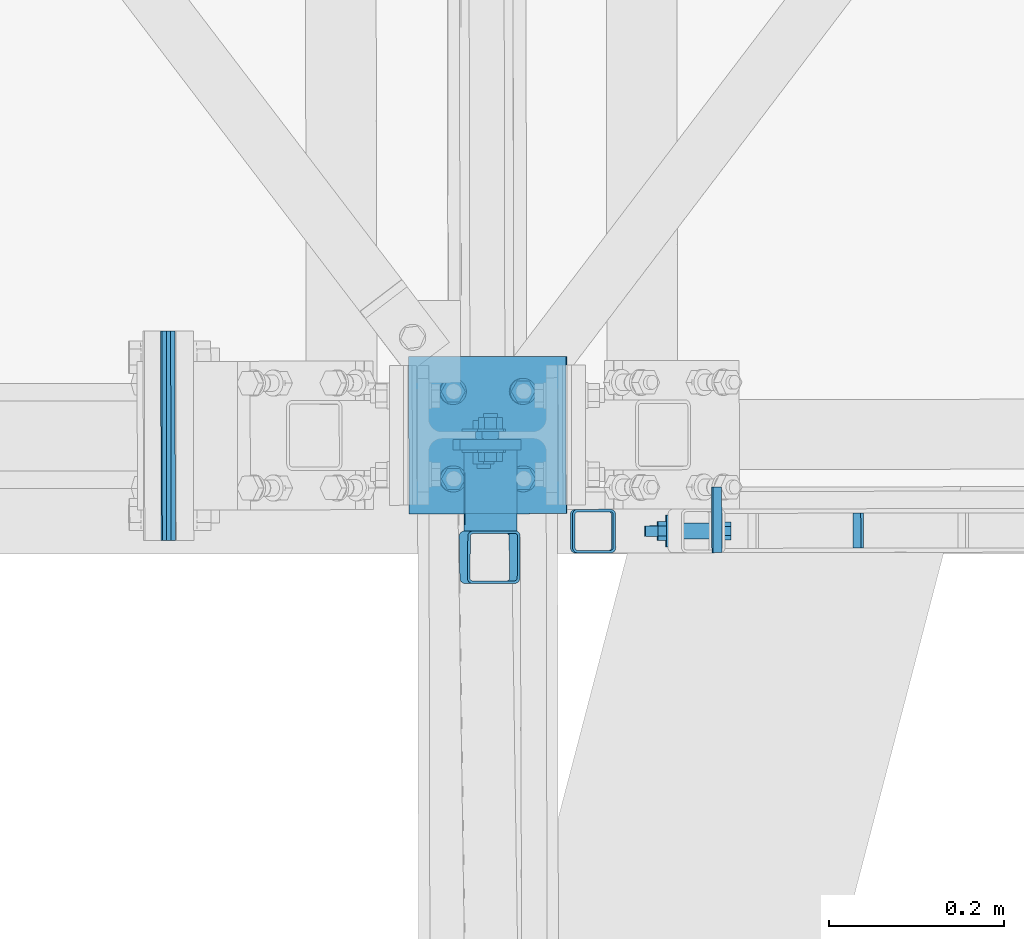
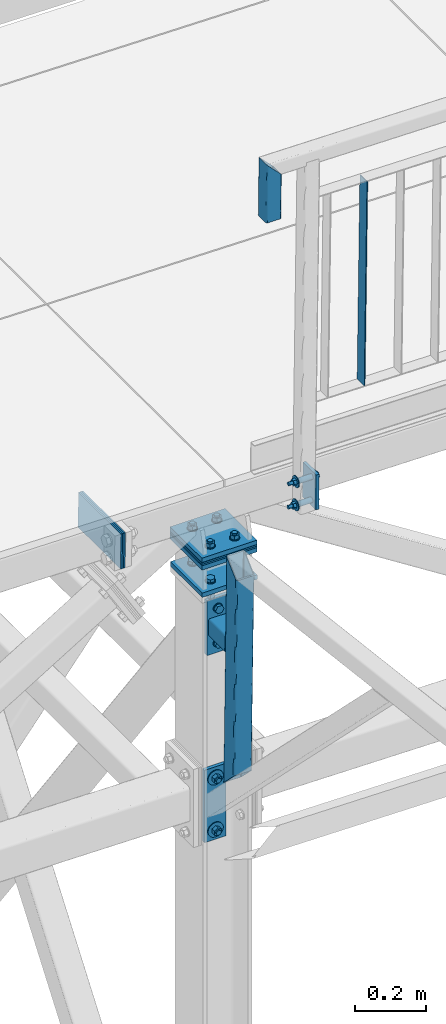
# One storey, part 102 of 169: 15 discrete accessories, 5 mechanical fasteners, 11 elements without a shape of their own.
"""IFC2X3 building model written with IfcOpenShell, lengths in millimetres."""

import ifcopenshell
import ifcopenshell.guid

model = None  # the IFC model being written
_history = None  # IfcOwnerHistory: only IFC2X3 demands one
_inside = {}  # id of a spatial element -> (the spatial element, [elements in it])
_under = {}  # id of a project, library or spatial element -> (it, [spatial elements below it])
_declared = {}  # id of a project -> (the project, [libraries it declares])
_typed = {}  # id of a type object -> (the type object, [elements of that type])
_made_of = {}  # id of a material, layer set ... -> (it, [elements and type objects made of it])


def new_model(schema):
    """Start an empty IFC model of exactly this schema.

    Asked for "IFC4X3", IfcOpenShell would pick the latest addendum, in which some entities
    have other attributes; the version numbers below select the first issue.
    IFC2X3 requires an IfcOwnerHistory on every rooted entity: one is made here for all.
    """
    global model, _history
    if schema == "IFC4X3":
        model = ifcopenshell.file(schema_version=(4, 3, 0, 0))
    else:
        model = ifcopenshell.file(schema=schema)
    _inside.clear()
    _under.clear()
    _declared.clear()
    _typed.clear()
    _made_of.clear()
    _history = None
    if model.schema == "IFC2X3":
        org = make("IfcOrganization", Name="unknown")
        user = make(
            "IfcPersonAndOrganization",
            ThePerson=make("IfcPerson", FamilyName="unknown"),
            TheOrganization=org,
        )
        app = make(
            "IfcApplication",
            ApplicationDeveloper=org,
            Version="unknown",
            ApplicationFullName="unknown",
            ApplicationIdentifier="unknown",
        )
        _history = make(
            "IfcOwnerHistory",
            OwningUser=user,
            OwningApplication=app,
            ChangeAction="ADDED",
            CreationDate=0,
        )
    return model


def make(cls, **values):
    """One entity of the class cls with the attributes given. An attribute that is None is left unset."""
    return model.create_entity(
        cls, **{name: value for name, value in values.items() if value is not None}
    )


def rooted(cls, **values):
    """An entity with a GlobalId (a new one), such as an element, a storey or a relation."""
    return make(cls, GlobalId=ifcopenshell.guid.new(), OwnerHistory=_history, **values)


def si_unit(unit_type, name, prefix=None):
    """IfcSIUnit, for example si_unit("LENGTHUNIT", "METRE", prefix="MILLI")."""
    return make("IfcSIUnit", UnitType=unit_type, Prefix=prefix, Name=name)


def assignment(units):
    """IfcUnitAssignment: the units of a project."""
    return None if units is None else make("IfcUnitAssignment", Units=units)


def point(xyz):
    """IfcCartesianPoint."""
    return None if xyz is None else make("IfcCartesianPoint", Coordinates=xyz)


def direction(xyz):
    """IfcDirection."""
    return None if xyz is None else make("IfcDirection", DirectionRatios=xyz)


def frame(location, z_axis=None, x_axis=None):
    """IfcAxis2Placement3D, a coordinate frame: its origin and axes. An axis left out is left unset."""
    return make(
        "IfcAxis2Placement3D",
        Location=point(location),
        Axis=direction(z_axis),
        RefDirection=direction(x_axis),
    )


def frame_2d(location, x_axis=None):
    """IfcAxis2Placement2D, a coordinate frame in the plane: its origin and x axis."""
    return make(
        "IfcAxis2Placement2D", Location=point(location), RefDirection=direction(x_axis)
    )


def origin_with_axes():
    """The frame at (0, 0, 0) with the z axis (0, 0, 1) and the x axis (1, 0, 0) written out."""
    return frame((0.0, 0.0, 0.0), z_axis=(0.0, 0.0, 1.0), x_axis=(1.0, 0.0, 0.0))


def origin_2d_with_axis():
    """The frame at (0, 0) in the plane with the x axis (1, 0) written out."""
    return frame_2d((0.0, 0.0), x_axis=(1.0, 0.0))


def place(relative_to, where):
    """IfcLocalPlacement: puts the frame where relative to a parent placement (None: the world)."""
    return make(
        "IfcLocalPlacement", PlacementRelTo=relative_to, RelativePlacement=where
    )


def context(
    kind, dimensions, precision=None, world=None, true_north=None, identifier=None
):
    """IfcGeometricRepresentationContext, for example the 3D "Model" context."""
    return make(
        "IfcGeometricRepresentationContext",
        ContextIdentifier=identifier,
        ContextType=kind,
        CoordinateSpaceDimension=dimensions,
        Precision=precision,
        WorldCoordinateSystem=world,
        TrueNorth=true_north,
    )


def subcontext(parent, identifier, kind, view, scale=None):
    """IfcGeometricRepresentationSubContext, for example "Body" below "Model"."""
    return make(
        "IfcGeometricRepresentationSubContext",
        ContextIdentifier=identifier,
        ContextType=kind,
        ParentContext=parent,
        TargetScale=scale,
        TargetView=view,
    )


def project(units=None, contexts=None):
    """IfcProject with its units and contexts."""
    return rooted(
        "IfcProject",
        Name="project",
        RepresentationContexts=contexts,
        UnitsInContext=assignment(units),
    )


def spatial(cls, under=None, at=None, **own):
    """A site, building, storey or space (cls), placed at a placement, below another one or the project."""
    s = rooted(cls, ObjectPlacement=at, **own)
    if under is not None:
        _under.setdefault(under.id(), (under, []))[1].append(s)
    return s


def polyline(points):
    """IfcPolyline through the points."""
    return make("IfcPolyline", Points=[point(p) for p in points])


def circle_curve(where, radius):
    """IfcCircle in the frame where."""
    return make("IfcCircle", Position=where, Radius=radius)


def parameter(value):
    """IfcParameterValue: where a trimmed curve begins or ends, as a parameter of its basis curve."""
    return model.create_entity("IfcParameterValue", value)


def trimmed(basis, trim1, trim2, sense, master):
    """IfcTrimmedCurve: the piece of a basis curve between two trims."""
    return make(
        "IfcTrimmedCurve",
        BasisCurve=basis,
        Trim1=trim1,
        Trim2=trim2,
        SenseAgreement=sense,
        MasterRepresentation=master,
    )


def segment(curve, same_sense, transition):
    """IfcCompositeCurveSegment."""
    return make(
        "IfcCompositeCurveSegment",
        Transition=transition,
        SameSense=same_sense,
        ParentCurve=curve,
    )


def composite_curve(segments, self_intersect=None):
    """IfcCompositeCurve: segments joined end to end."""
    return make("IfcCompositeCurve", Segments=segments, SelfIntersect=self_intersect)


def profile(cls, at=None, kind="AREA", **sizes):
    """A parametric profile (cls). Its sizes go by their IFC names, for example OverallWidth=200.0."""
    return make(cls, ProfileType=kind, Position=at, **sizes)


def rectangle(**sizes):
    """IfcRectangleProfileDef."""
    return profile("IfcRectangleProfileDef", **sizes)


def hollow_rectangle(**sizes):
    """IfcRectangleHollowProfileDef."""
    return profile("IfcRectangleHollowProfileDef", **sizes)


def circle(**sizes):
    """IfcCircleProfileDef."""
    return profile("IfcCircleProfileDef", **sizes)


def outline(outer, holes=None, kind="AREA"):
    """IfcArbitraryClosedProfileDef: a profile drawn as a closed curve; with holes, ...WithVoids."""
    if holes is None:
        return make("IfcArbitraryClosedProfileDef", ProfileType=kind, OuterCurve=outer)
    return make(
        "IfcArbitraryProfileDefWithVoids",
        ProfileType=kind,
        OuterCurve=outer,
        InnerCurves=holes,
    )


def extrude(swept, where, along, depth):
    """IfcExtrudedAreaSolid: the profile swept, set in the frame where, extruded along a direction by depth."""
    return make(
        "IfcExtrudedAreaSolid",
        SweptArea=swept,
        Position=where,
        ExtrudedDirection=direction(along),
        Depth=depth,
    )


def clip(a, b, op="DIFFERENCE"):
    """IfcBooleanClippingResult: the solid a cut by the half space b."""
    return make(
        "IfcBooleanClippingResult", Operator=op, FirstOperand=a, SecondOperand=b
    )


def halfspace(plane, agree):
    """IfcHalfSpaceSolid: all space on one side of the plane z = 0 of the frame plane."""
    return make(
        "IfcHalfSpaceSolid",
        BaseSurface=make("IfcPlane", Position=plane),
        AgreementFlag=agree,
    )


def shape(context_of_items, identifier, shape_type, items):
    """IfcShapeRepresentation: the items that make up one representation, for example the "Body"."""
    return make(
        "IfcShapeRepresentation",
        ContextOfItems=context_of_items,
        RepresentationIdentifier=identifier,
        RepresentationType=shape_type,
        Items=items,
    )


def source(mapping_origin, context_of_items, identifier, shape_type, items):
    """IfcRepresentationMap: a shape defined once, which mapped items show again and again."""
    return make(
        "IfcRepresentationMap",
        MappingOrigin=mapping_origin,
        MappedRepresentation=shape(context_of_items, identifier, shape_type, items),
    )


def transform(
    local_origin,
    x_axis=None,
    y_axis=None,
    z_axis=None,
    scale=None,
    scale2=None,
    scale3=None,
    uniform=True,
):
    """IfcCartesianTransformationOperator3D, or its non-uniform kind. x_axis, y_axis, z_axis: its Axis1, 2, 3."""
    if uniform:
        return make(
            "IfcCartesianTransformationOperator3D",
            Axis1=direction(x_axis),
            Axis2=direction(y_axis),
            LocalOrigin=point(local_origin),
            Scale=scale,
            Axis3=direction(z_axis),
        )
    return make(
        "IfcCartesianTransformationOperator3DnonUniform",
        Axis1=direction(x_axis),
        Axis2=direction(y_axis),
        LocalOrigin=point(local_origin),
        Scale=scale,
        Axis3=direction(z_axis),
        Scale2=scale2,
        Scale3=scale3,
    )


def mapped(mapping_source, mapping_target):
    """IfcMappedItem: shows the shape of a source again, moved by a transform."""
    return make(
        "IfcMappedItem", MappingSource=mapping_source, MappingTarget=mapping_target
    )


def material(Name=None, Category=None):
    """IfcMaterial."""
    return make("IfcMaterial", Name=Name, Category=Category)


def made_of(thing, what):
    """Note that an element or type object is made of a material, layer set ...; save() writes the relation."""
    if what is not None:
        _made_of.setdefault(what.id(), (what, []))[1].append(thing)
    return thing


def type_object(cls, material=None, **own):
    """A type object (cls), such as IfcWallType, which elements share."""
    return made_of(rooted(cls, **own), material)


def element(
    cls,
    number,
    at=None,
    inside=None,
    cuts=None,
    type_object=None,
    material=None,
    context=None,
    identifier="Body",
    shape_type=None,
    held_by="IfcProductDefinitionShape",
    body=None,
    shapes=None,
    **own,
):
    """One element of the class cls, such as IfcWall. Its Tag is "e" and its number.

    at: its placement. inside: the storey or other place that contains it. cuts: it is an
    opening in that element (IfcRelVoidsElement). A single representation is given by context,
    identifier, shape_type and body (its items); several are given by shapes. held_by: the class
    of the entity that holds the representations. save() writes the other relations.
    """
    e = rooted(cls, Tag="e%d" % number, ObjectPlacement=at, **own)
    if body is not None:
        shapes = [shape(context, identifier, shape_type, body)]
    if shapes is not None:
        e.Representation = make(held_by, Representations=shapes)
    if inside is not None:
        _inside.setdefault(inside.id(), (inside, []))[1].append(e)
    if cuts is not None:
        rooted(
            "IfcRelVoidsElement", RelatingBuildingElement=cuts, RelatedOpeningElement=e
        )
    if type_object is not None:
        _typed.setdefault(type_object.id(), (type_object, []))[1].append(e)
    return made_of(e, material)


def aggregate(whole, parts):
    """IfcRelAggregates: a whole, such as a stair, and the parts it consists of."""
    return rooted("IfcRelAggregates", RelatingObject=whole, RelatedObjects=parts)


def save(model, path):
    """Write the relations noted so far, then the file.

    IfcRelAggregates (storeys below a building ...), IfcRelContainedInSpatialStructure (elements
    in a storey), IfcRelDefinesByType, IfcRelAssociatesMaterial and IfcRelDeclares: one each for
    every whole, place, type object, material and project.
    """
    for whole, parts in _under.values():
        aggregate(whole, parts)
    for where, things in _inside.values():
        rooted(
            "IfcRelContainedInSpatialStructure",
            RelatedElements=things,
            RelatingStructure=where,
        )
    for kind, things in _typed.values():
        rooted("IfcRelDefinesByType", RelatedObjects=things, RelatingType=kind)
    for what, things in _made_of.values():
        rooted("IfcRelAssociatesMaterial", RelatedObjects=things, RelatingMaterial=what)
    for by, libraries in _declared.values():
        rooted("IfcRelDeclares", RelatingContext=by, RelatedDefinitions=libraries)
    model.write(path)


model = new_model("IFC2X3")

# Units and contexts
model_context = context("Model", 3, precision=1e-05, world=origin_with_axes())
body_context = subcontext(model_context, "Body", "Model", "MODEL_VIEW")
ifc_project = project(units=[si_unit("LENGTHUNIT", "METRE", prefix="MILLI"), si_unit("AREAUNIT", "SQUARE_METRE"), si_unit("VOLUMEUNIT", "CUBIC_METRE"), si_unit("MASSUNIT", "GRAM", prefix="KILO"), si_unit("TIMEUNIT", "SECOND"), si_unit("PLANEANGLEUNIT", "RADIAN"), si_unit("SOLIDANGLEUNIT", "STERADIAN"), si_unit("THERMODYNAMICTEMPERATUREUNIT", "DEGREE_CELSIUS"), si_unit("LUMINOUSINTENSITYUNIT", "LUMEN")], contexts=[model_context])

# Site, building, storey
site_placement = place(None, origin_with_axes())
site = spatial("IfcSite", under=ifc_project, at=site_placement, Name="Undefined", CompositionType="ELEMENT")
building_placement = place(site_placement, origin_with_axes())
building = spatial("IfcBuilding", under=site, at=building_placement, Name="Undefined", CompositionType="ELEMENT")
storey_placement = place(building_placement, origin_with_axes())
storey = spatial("IfcBuildingStorey", under=building, at=storey_placement, Name="Undefined", CompositionType="ELEMENT", Elevation=0.0)

# Assembly, discrete accessory
assembly_1_placement = place(storey_placement, origin_with_axes())
assembly_1 = element("IfcElementAssembly", 1, at=assembly_1_placement, inside=storey, Name="Steel Assembly", AssemblyPlace="NOTDEFINED", PredefinedType="RIGID_FRAME")
ifc_material_1 = material(Name="STEEL/S235")
discrete_accessory_type_1 = type_object("IfcDiscreteAccessoryType", Name="BLACHA")
discrete_accessory_1_placement = place(assembly_1_placement, frame((6385.41914912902, 56.9219025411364, 13873.0885654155), z_axis=(-0.999917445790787, -0.00186469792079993, 0.0127131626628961), x_axis=(0.00186484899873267, -0.999998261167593, 4.28757666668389e-08)))
discrete_accessory_1 = element("IfcDiscreteAccessory", 2, at=discrete_accessory_1_placement, type_object=discrete_accessory_type_1, material=ifc_material_1, Name="BLACHA", ObjectType="BL10*120", context=body_context, shape_type="SweptSolid", body=[
    extrude(outline(polyline([(75.0000002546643, -60.0000000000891), (-5.35749222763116e-11, -59.9999999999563), (5.3567816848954e-11, 59.9999999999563), (75.0000002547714, 59.9999999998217), (75.0000002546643, -60.0000000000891)])), frame((-1.81898926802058e-12, -1.18000176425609e-16, -5.00000000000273), z_axis=(0.0, 0.0, 1.0), x_axis=(1.0, 0.0, 0.0)), (0.0, 0.0, 1.0), 10.0),
])

# Assembly, discrete accessories
assembly_2_placement = place(storey_placement, origin_with_axes())
assembly_2 = element("IfcElementAssembly", 3, at=assembly_2_placement, inside=storey, Name="Steel Assembly", AssemblyPlace="NOTDEFINED", PredefinedType="RIGID_FRAME")
ifc_material_2 = material(Name="STEEL/S355")
discrete_accessory_2_placement = place(assembly_2_placement, frame((6161.74461870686, 105.504892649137, 13434.2396217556), z_axis=(0.00186484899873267, -0.999998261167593, 4.28757666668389e-08), x_axis=(-0.99999826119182, -0.00186483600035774, -1.66000011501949e-07)))
discrete_accessory_2 = element("IfcDiscreteAccessory", 4, at=discrete_accessory_2_placement, type_object=discrete_accessory_type_1, material=ifc_material_2, Name="BLACHA", ObjectType="BL12*190", context=body_context, shape_type="SweptSolid", body=[
    extrude(outline(polyline([(69.9999999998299, 95.0000000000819), (69.9999999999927, -94.99999999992), (8.18545231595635e-11, -95.0), (-8.18545231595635e-11, 95.0000000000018), (69.9999999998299, 95.0000000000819)])), frame((-1.81898942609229e-12, -1.81898940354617e-12, -5.99999999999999), z_axis=(0.0, 0.0, 1.0), x_axis=(1.0, 0.0, 0.0)), (0.0, 0.0, 1.0), 12.0),
])
discrete_accessory_3_placement = place(assembly_2_placement, frame((6118.94738501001, 105.42508243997, 12945.8012747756), z_axis=(0.00186484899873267, -0.999998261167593, 4.28757666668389e-08), x_axis=(-2.54700353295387e-10, 0.0, -1.0)))
discrete_accessory_3 = element("IfcDiscreteAccessory", 5, at=discrete_accessory_3_placement, type_object=discrete_accessory_type_1, material=ifc_material_2, Name="BLACHA", ObjectType="BL12*70", context=body_context, shape_type="SweptSolid", body=[
    extrude(outline(polyline([(249.999999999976, -35.0000000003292), (-3.45607986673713e-11, -35.0000000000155), (3.27418092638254e-11, 35.0000000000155), (250.000000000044, 34.9999999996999), (249.999999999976, -35.0000000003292)])), frame((-1.81898942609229e-12, -1.81898940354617e-12, -5.99999999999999), z_axis=(0.0, 0.0, 1.0), x_axis=(1.0, 0.0, 0.0)), (0.0, 0.0, 1.0), 12.0),
])

# Assembly, discrete accessory
assembly_3_placement = place(storey_placement, origin_with_axes())
assembly_3 = element("IfcElementAssembly", 6, at=assembly_3_placement, inside=storey, Name="Steel Assembly", AssemblyPlace="NOTDEFINED", PredefinedType="RIGID_FRAME")
discrete_accessory_4_placement = place(assembly_3_placement, frame((5752.63599371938, 235.742168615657, 13881.1296288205), z_axis=(0.9999174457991, 0.00186469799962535, -0.0127131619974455), x_axis=(0.00186484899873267, -0.999998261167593, 4.28757666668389e-08)))
discrete_accessory_4 = element("IfcDiscreteAccessory", 7, at=discrete_accessory_4_placement, type_object=discrete_accessory_type_1, material=ifc_material_2, Name="BLACHA", ObjectType="BL5*120", context=body_context, shape_type="SweptSolid", body=[
    extrude(outline(polyline([(5.3567816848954e-11, 59.9999999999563), (239.999999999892, 59.9999999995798), (239.999999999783, -60.0000000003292), (-5.35749222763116e-11, -59.9999999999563), (5.3567816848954e-11, 59.9999999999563)])), frame((6.80888809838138e-19, -2.87858853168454e-21, -2.49999999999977), z_axis=(0.0, 0.0, 1.0), x_axis=(1.0, 0.0, 0.0)), (0.0, 0.0, 1.0), 5.0),
])
aggregate(assembly_3, [discrete_accessory_4])

assembly_4_placement = place(storey_placement, origin_with_axes())
assembly_4 = element("IfcElementAssembly", 8, at=assembly_4_placement, inside=storey, Name="Steel Assembly", AssemblyPlace="NOTDEFINED", PredefinedType="RIGID_FRAME")
discrete_accessory_5_placement = place(assembly_4_placement, frame((5757.63558094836, 235.751492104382, 13881.0660630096), z_axis=(0.9999174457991, 0.00186469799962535, -0.0127131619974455), x_axis=(0.00186484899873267, -0.999998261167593, 4.28757666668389e-08)))
discrete_accessory_5 = element("IfcDiscreteAccessory", 9, at=discrete_accessory_5_placement, type_object=discrete_accessory_type_1, material=ifc_material_2, Name="BLACHA", ObjectType="BL5*120", context=body_context, shape_type="SweptSolid", body=[
    extrude(outline(polyline([(5.3567816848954e-11, 59.9999999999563), (239.999999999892, 59.9999999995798), (239.999999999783, -60.0000000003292), (-5.35749222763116e-11, -59.9999999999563), (5.3567816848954e-11, 59.9999999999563)])), frame((6.80888809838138e-19, -2.87858853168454e-21, -2.49999999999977), z_axis=(0.0, 0.0, 1.0), x_axis=(1.0, 0.0, 0.0)), (0.0, 0.0, 1.0), 5.0),
])
aggregate(assembly_4, [discrete_accessory_5])

assembly_5_placement = place(storey_placement, origin_with_axes())
assembly_5 = element("IfcElementAssembly", 10, at=assembly_5_placement, inside=storey, Name="Steel Assembly", AssemblyPlace="NOTDEFINED", PredefinedType="RIGID_FRAME")
discrete_accessory_6_placement = place(assembly_5_placement, frame((5762.63516817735, 235.760815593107, 13881.0024971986), z_axis=(0.9999174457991, 0.00186469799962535, -0.0127131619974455), x_axis=(0.00186484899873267, -0.999998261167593, 4.28757666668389e-08)))
discrete_accessory_6 = element("IfcDiscreteAccessory", 11, at=discrete_accessory_6_placement, type_object=discrete_accessory_type_1, material=ifc_material_2, Name="BLACHA", ObjectType="BL5*120", context=body_context, shape_type="SweptSolid", body=[
    extrude(outline(polyline([(5.3567816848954e-11, 59.9999999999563), (239.999999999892, 59.9999999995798), (239.999999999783, -60.0000000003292), (-5.35749222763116e-11, -59.9999999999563), (5.3567816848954e-11, 59.9999999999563)])), frame((6.80888809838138e-19, -2.87858853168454e-21, -2.49999999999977), z_axis=(0.0, 0.0, 1.0), x_axis=(1.0, 0.0, 0.0)), (0.0, 0.0, 1.0), 5.0),
])
aggregate(assembly_5, [discrete_accessory_6])

assembly_6_placement = place(storey_placement, origin_with_axes())
assembly_6 = element("IfcElementAssembly", 12, at=assembly_6_placement, inside=storey, Name="Steel Assembly", AssemblyPlace="NOTDEFINED", PredefinedType="RIGID_FRAME")
discrete_accessory_7_placement = place(assembly_6_placement, frame((6213.22160865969, 116.602353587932, 13717.2556547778), z_axis=(0.0, 0.0, 1.0), x_axis=(-0.99999826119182, -0.00186483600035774, -1.66000011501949e-07)))
discrete_accessory_7 = element("IfcDiscreteAccessory", 13, at=discrete_accessory_7_placement, type_object=discrete_accessory_type_1, material=ifc_material_2, Name="BLACHA", ObjectType="BL5*180", context=body_context, shape_type="SweptSolid", body=[
    extrude(outline(polyline([(179.999999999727, -90.0000000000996), (6.18456397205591e-11, -90.0), (-6.3664629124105e-11, 90.0000000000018), (179.999999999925, 89.9999999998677), (179.999999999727, -90.0000000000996)])), frame((6.80888809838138e-19, -2.87858853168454e-21, -2.49999999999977), z_axis=(0.0, 0.0, 1.0), x_axis=(1.0, 0.0, 0.0)), (0.0, 0.0, 1.0), 5.0),
])
aggregate(assembly_6, [discrete_accessory_7])

assembly_7_placement = place(storey_placement, origin_with_axes())
assembly_7 = element("IfcElementAssembly", 14, at=assembly_7_placement, inside=storey, Name="Steel Assembly", AssemblyPlace="NOTDEFINED", PredefinedType="RIGID_FRAME")
discrete_accessory_8_placement = place(assembly_7_placement, frame((6213.2216078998, 116.602353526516, 13722.2556547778), z_axis=(0.0, 0.0, 1.0), x_axis=(-0.99999826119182, -0.00186483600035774, -1.66000011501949e-07)))
discrete_accessory_8 = element("IfcDiscreteAccessory", 15, at=discrete_accessory_8_placement, type_object=discrete_accessory_type_1, material=ifc_material_2, Name="BLACHA", ObjectType="BL5*180", context=body_context, shape_type="SweptSolid", body=[
    extrude(outline(polyline([(179.999999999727, -90.0000000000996), (6.18456397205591e-11, -90.0), (-6.3664629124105e-11, 90.0000000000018), (179.999999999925, 89.9999999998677), (179.999999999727, -90.0000000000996)])), frame((6.80888809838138e-19, -2.87858853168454e-21, -2.49999999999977), z_axis=(0.0, 0.0, 1.0), x_axis=(1.0, 0.0, 0.0)), (0.0, 0.0, 1.0), 5.0),
])
aggregate(assembly_7, [discrete_accessory_8])

# Discrete accessory
discrete_accessory_9_placement = place(assembly_1_placement, frame((6213.22160622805, 116.602353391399, 13733.2556547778), z_axis=(0.0, 0.0, 1.0), x_axis=(-0.99999826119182, -0.00186483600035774, -1.66000011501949e-07)))
discrete_accessory_9 = element("IfcDiscreteAccessory", 16, at=discrete_accessory_9_placement, type_object=discrete_accessory_type_1, material=ifc_material_2, Name="BLACHA", ObjectType="BL15*180", context=body_context, shape_type="SweptSolid", body=[
    extrude(outline(polyline([(179.999999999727, -90.0000000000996), (6.18456397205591e-11, -90.0), (-6.3664629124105e-11, 90.0000000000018), (179.999999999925, 89.9999999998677), (179.999999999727, -90.0000000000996)])), frame((0.0, -1.24077091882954e-23, -7.49999999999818), z_axis=(0.0, 0.0, 1.0), x_axis=(1.0, 0.0, 0.0)), (0.0, 0.0, 1.0), 15.0),
])

# Assembly, discrete accessories
assembly_8_placement = place(storey_placement, origin_with_axes())
assembly_8 = element("IfcElementAssembly", 17, at=assembly_8_placement, inside=storey, Name="Steel Assembly", AssemblyPlace="NOTDEFINED", PredefinedType="RIGID_FRAME")
discrete_accessory_10_placement = place(assembly_8_placement, frame((6213.2850547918, 116.601026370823, 13707.2556547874), z_axis=(0.0, 0.0, 1.0), x_axis=(-0.99999826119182, -0.00186483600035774, -1.66000011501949e-07)))
discrete_accessory_10 = element("IfcDiscreteAccessory", 18, at=discrete_accessory_10_placement, type_object=discrete_accessory_type_1, material=ifc_material_2, Name="BLACHA", ObjectType="BL15*180", context=body_context, shape_type="SweptSolid", body=[
    extrude(outline(polyline([(179.999999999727, -90.0000000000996), (6.18456397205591e-11, -90.0), (-6.3664629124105e-11, 90.0000000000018), (179.999999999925, 89.9999999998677), (179.999999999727, -90.0000000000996)])), frame((0.0, -1.24077091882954e-23, -7.49999999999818), z_axis=(0.0, 0.0, 1.0), x_axis=(1.0, 0.0, 0.0)), (0.0, 0.0, 1.0), 15.0),
])
discrete_accessory_11_placement = place(assembly_8_placement, frame((6034.45279516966, 26.2691858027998, 13612.6120186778), z_axis=(-0.00159590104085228, -7.90102138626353e-06, 0.99999872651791), x_axis=(0.999996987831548, 0.00186477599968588, 0.00159591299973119)))
discrete_accessory_11 = element("IfcDiscreteAccessory", 19, at=discrete_accessory_11_placement, type_object=discrete_accessory_type_1, material=ifc_material_2, Name="BLACHA", ObjectType="BL15*180", context=body_context, shape_type="SweptSolid", body=[
    extrude(outline(polyline([(0.0, 0.0), (180.000000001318, 1.73212200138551e-09), (180.000000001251, 180.000000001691), (4.5656634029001e-10, 180.000000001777), (0.0, 0.0)])), frame((0.0, -1.24077091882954e-23, -7.49999999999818), z_axis=(0.0, 0.0, 1.0), x_axis=(1.0, 0.0, 0.0)), (0.0, 0.0, 1.0), 15.0),
])
aggregate(assembly_8, [discrete_accessory_10, discrete_accessory_11])

# Discrete accessory
discrete_accessory_type_2 = type_object("IfcDiscreteAccessoryType", Name="BEAM")
discrete_accessory_12_placement = place(assembly_2_placement, frame((6126.73073115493, 112.919314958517, 13434.2396159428), z_axis=(0.012713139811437, 2.3750999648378e-05, 0.999919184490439), x_axis=(0.00186484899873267, -0.999998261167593, 4.28757666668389e-08)))
discrete_accessory_12 = element("IfcDiscreteAccessory", 20, at=discrete_accessory_12_placement, type_object=discrete_accessory_type_2, material=ifc_material_2, Name="BEAM", ObjectType="SHS60*3", context=body_context, shape_type="Clipping", body=[
    clip(clip(extrude(hollow_rectangle(XDim=60.0, YDim=60.0, WallThickness=3.0, InnerFilletRadius=3.0, OuterFilletRadius=6.0, at=origin_2d_with_axis()), frame((106.128787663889, -2.30130124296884e-17, 1.81898940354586e-12), z_axis=(-1.0, -3.46944695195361e-18, -1.38777878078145e-17), x_axis=(1.73472347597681e-18, -1.0, 0.0)), (0.0, 0.0, 1.0), 92.65), halfspace(frame((106.128787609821, -3.69114695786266e-06, 999.999999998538), z_axis=(-1.0, -3.46944695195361e-18, -1.38777878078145e-17), x_axis=(1.73472347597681e-18, -1.0, 0.0)), True)), halfspace(frame((13.4797045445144, 29.9951511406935, 0.381368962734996), z_axis=(1.0, 0.0, 0.0), x_axis=(3.09562608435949e-10, 0.012713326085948, -0.999919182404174)), True)),
])

discrete_accessory_13_placement = place(assembly_2_placement, frame((6130.86855519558, -23.2019929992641, 13739.6273577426), z_axis=(0.00186484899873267, -0.999998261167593, 4.28757666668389e-08), x_axis=(-0.012713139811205, -2.37511238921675e-05, -0.999919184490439)))
discrete_accessory_13 = element("IfcDiscreteAccessory", 21, at=discrete_accessory_13_placement, type_object=discrete_accessory_type_2, material=ifc_material_2, Name="BEAM", ObjectType="SHS60*3", context=body_context, shape_type="Clipping", body=[
    clip(clip(extrude(hollow_rectangle(XDim=60.0, YDim=60.0, WallThickness=3.0, InnerFilletRadius=3.0, OuterFilletRadius=6.0, at=origin_2d_with_axis()), frame((812.522108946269, 9.09494701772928e-13, -7.10957187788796e-15), z_axis=(-1.0, -3.46944695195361e-18, -1.38777878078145e-17), x_axis=(1.73472347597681e-18, -1.0, 0.0)), (0.0, 0.0, 1.0), 844.63), halfspace(frame((67.8628013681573, 2.04154366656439e-06, 685.893546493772), z_axis=(-0.707106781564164, -2.34576254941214e-10, -0.707106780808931), x_axis=(1.73472347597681e-18, -1.0, 0.0)), True)), halfspace(frame((53.3139673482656, -3.32958734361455e-06, 30.0000033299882), z_axis=(-0.747529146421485, -7.40198753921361e-08, 0.664229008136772), x_axis=(1.73472347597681e-18, -1.0, 0.0)), False)),
])

# Assembly, discrete accessories
assembly_9_placement = place(storey_placement, origin_with_axes())
assembly_9 = element("IfcElementAssembly", 22, at=assembly_9_placement, inside=storey, Name="Steel Assembly", AssemblyPlace="NOTDEFINED", PredefinedType="RIGID_FRAME")
discrete_accessory_type_3 = type_object("IfcDiscreteAccessoryType", Name="PORĘCZ")
discrete_accessory_14_placement = place(assembly_9_placement, frame((6553.59420374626, 7.23548719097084, 15031.0452927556), z_axis=(0.00186484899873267, -0.999998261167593, 4.28757666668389e-08), x_axis=(-0.012713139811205, -2.37511238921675e-05, -0.999919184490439)))
discrete_accessory_14 = element("IfcDiscreteAccessory", 23, at=discrete_accessory_14_placement, type_object=discrete_accessory_type_3, material=ifc_material_1, Name="PORĘCZ", ObjectType="BL40*3", context=body_context, shape_type="Clipping", body=[
    clip(clip(extrude(rectangle(XDim=3.0, YDim=40.0, at=origin_2d_with_axis()), frame((848.500000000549, 1.47191286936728e-15, -8.89750592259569e-16), z_axis=(-1.0, -3.46944695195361e-18, -1.38777878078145e-17), x_axis=(1.73472347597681e-18, -1.0, 0.0)), (0.0, 0.0, 1.0), 702.0), halfspace(frame((848.499999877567, 4.522007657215e-09, 1000.00000000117), z_axis=(-1.0, -3.46944695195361e-18, -1.38777878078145e-17), x_axis=(1.73472347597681e-18, -1.0, 0.0)), True)), halfspace(frame((146.499999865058, 4.97311702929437e-09, 1000.00000000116), z_axis=(1.0, 0.0, 0.0), x_axis=(0.0, 1.0, 0.0)), True)),
])
discrete_accessory_15_placement = place(assembly_9_placement, frame((6245.27242991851, 6.66051274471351, 15034.9653610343), z_axis=(0.00186484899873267, -0.999998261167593, 4.28757666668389e-08), x_axis=(-0.012713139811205, -2.37511238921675e-05, -0.999919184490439)))
discrete_accessory_15 = element("IfcDiscreteAccessory", 24, at=discrete_accessory_15_placement, type_object=discrete_accessory_type_3, material=ifc_material_1, Name="PORĘCZ", ObjectType="SHS50*3", context=body_context, shape_type="Clipping", body=[
    clip(extrude(hollow_rectangle(XDim=50.0, YDim=50.0, WallThickness=3.0, InnerFilletRadius=3.0, OuterFilletRadius=6.0, at=origin_2d_with_axis()), frame((174.999999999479, 0.0, -8.8846677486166e-16), z_axis=(-1.0, -3.46944695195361e-18, -1.38777878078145e-17), x_axis=(1.73472347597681e-18, -1.0, 0.0)), (0.0, 0.0, 1.0), 201.53), halfspace(frame((-25.0000007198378, -25.0000000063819, 5.15287482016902e-07), z_axis=(0.707106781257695, -0.7071067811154, 8.78533101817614e-11), x_axis=(0.0, 0.0, 1.0)), True)),
])
aggregate(assembly_9, [discrete_accessory_14, discrete_accessory_15])

# Assembly, mechanical fastener
assembly_10_placement = place(storey_placement, origin_with_axes())
assembly_10 = element("IfcElementAssembly", 25, at=assembly_10_placement, inside=storey, Name="Steel Assembly", AssemblyPlace="NOTDEFINED", PredefinedType="RIGID_FRAME")
ifc_material_3 = material(Name="Undefined")
discrete_accessory_type_4 = type_object("IfcDiscreteAccessoryType", Name="Bolt assembly")
shared_shape_1 = source(origin_with_axes(), body_context, "Body", "SweptSolid", [
    extrude(circle(Radius=9.0, at=origin_2d_with_axis()), frame((0.0, -4.90000000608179, 0.0), z_axis=(0.0, 1.0, 0.0), x_axis=(1.0, 0.0, 0.0)), (0.0, 0.0, 1.0), 10.0),
    extrude(circle(Radius=9.0, at=origin_2d_with_axis()), frame((0.0, 4.89999999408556, 0.0), z_axis=(0.0, 1.0, 0.0), x_axis=(1.0, 0.0, 0.0)), (0.0, 0.0, 1.0), 50.1),
    extrude(outline(polyline([(10.39230484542, 0.0), (5.19615242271, 9.00000000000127), (-5.19615242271, 9.00000000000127), (-10.39230484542, 0.0), (-5.19615242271, -9.00000000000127), (5.19615242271, -9.00000000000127), (10.39230484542, 0.0)])), frame((0.0, -15.5000000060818, 0.0), z_axis=(0.0, 1.0, 0.0), x_axis=(1.0, 0.0, 0.0)), (0.0, 0.0, 1.0), 7.5),
    extrude(circle(Radius=6.0, at=origin_2d_with_axis()), frame((0.0, -8.00000000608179, 0.0), z_axis=(0.0, 1.0, 0.0), x_axis=(1.0, 0.0, 0.0)), (0.0, 0.0, 1.0), 90.0),
    extrude(circle(Radius=18.5, at=origin_2d_with_axis()), frame((0.0, -8.00000000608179, 0.0), z_axis=(0.0, 1.0, 0.0), x_axis=(1.0, 0.0, 0.0)), (0.0, 0.0, 1.0), 3.0),
    extrude(circle(Radius=18.5, at=origin_2d_with_axis()), frame((0.0, 54.9999999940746, 0.0), z_axis=(0.0, 1.0, 0.0), x_axis=(1.0, 0.0, 0.0)), (0.0, 0.0, 1.0), 3.0),
    extrude(outline(polyline([(10.96965511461, 0.0), (5.484827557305, 9.50000000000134), (-5.484827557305, 9.50000000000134), (-10.96965511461, 0.0), (-5.484827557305, -9.50000000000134), (5.484827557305, -9.50000000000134), (10.96965511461, 0.0)])), frame((0.0, 57.9999999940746, 0.0), z_axis=(0.0, 1.0, 0.0), x_axis=(1.0, 0.0, 0.0)), (0.0, 0.0, 1.0), 10.0),
])
mechanical_fastener_1_placement = place(assembly_10_placement, frame((6385.51874819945, 6.92200110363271, 13873.5885271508), z_axis=(0.0127140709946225, -0.00047624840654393, 0.999919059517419), x_axis=(-0.00185849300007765, 0.999998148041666, 0.000499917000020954)))
mechanical_fastener_1 = element("IfcMechanicalFastener", 26, at=mechanical_fastener_1_placement, type_object=discrete_accessory_type_4, material=ifc_material_3, Name="Bolt assembly", NominalDiameter=12.0, NominalLength=90.0, context=body_context, shape_type="MappedRepresentation", body=[
    mapped(shared_shape_1, transform((-1.15463194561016e-14, 5.45696821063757e-11, -39.9999999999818))),
    mapped(shared_shape_1, transform((8.88178419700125e-15, -5.54791768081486e-11, 39.99999999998))),
])
aggregate(assembly_10, [mechanical_fastener_1])

# Mechanical fastener
shared_shape_2 = source(origin_with_axes(), body_context, "Body", "SweptSolid", [
    extrude(circle(Radius=9.5, at=origin_2d_with_axis()), frame((0.0, -0.100000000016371, 0.0), z_axis=(0.0, 1.0, 0.0), x_axis=(1.0, 0.0, 0.0)), (0.0, 0.0, 1.0), 8.1),
    extrude(outline(composite_curve([segment(polyline([(9.5, 10.0), (9.5, -10.0)]), True, "CONTINUOUS"), segment(trimmed(circle_curve(frame_2d((0.0, -10.0), x_axis=(1.0, 0.0)), 9.5), [parameter(0.0)], [parameter(3.14159265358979)], False, "PARAMETER"), True, "CONTINUOUS"), segment(polyline([(-9.5, -10.0), (-9.5, 10.0)]), True, "CONTINUOUS"), segment(trimmed(circle_curve(frame_2d((0.0, 10.0), x_axis=(-1.0, 0.0)), 9.5), [parameter(0.0)], [parameter(3.14159265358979)], False, "PARAMETER"), True, "DISCONTINUOUS")], self_intersect=False)), frame((0.0, -12.9000000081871, 0.0), z_axis=(0.0, 1.0, 0.0), x_axis=(1.0, 0.0, 0.0)), (0.0, 0.0, 1.0), 12.0),
    extrude(outline(polyline([(13.85640646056, 0.0), (6.92820323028, 12.0000000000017), (-6.92820323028, 12.0000000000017), (-13.85640646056, 0.0), (-6.92820323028, -12.0000000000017), (6.92820323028, -12.0000000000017), (13.85640646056, 0.0)])), frame((0.0, -26.0000000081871, 0.0), z_axis=(0.0, 1.0, 0.0), x_axis=(1.0, 0.0, 0.0)), (0.0, 0.0, 1.0), 10.0),
    extrude(circle(Radius=8.0, at=origin_2d_with_axis()), frame((0.0, -16.0000000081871, 0.0), z_axis=(0.0, 1.0, 0.0), x_axis=(1.0, 0.0, 0.0)), (0.0, 0.0, 1.0), 45.0),
    extrude(circle(Radius=15.0, at=origin_2d_with_axis()), frame((0.0, -16.0000000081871, 0.0), z_axis=(0.0, 1.0, 0.0), x_axis=(1.0, 0.0, 0.0)), (0.0, 0.0, 1.0), 3.0),
    extrude(circle(Radius=15.0, at=origin_2d_with_axis()), frame((0.0, 7.99999999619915, 0.0), z_axis=(0.0, 1.0, 0.0), x_axis=(1.0, 0.0, 0.0)), (0.0, 0.0, 1.0), 3.0),
    extrude(outline(polyline([(13.85640646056, 0.0), (6.92820323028, 12.0000000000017), (-6.92820323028, 12.0000000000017), (-13.85640646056, 0.0), (-6.92820323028, -12.0000000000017), (6.92820323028, -12.0000000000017), (13.85640646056, 0.0)])), frame((0.0, 10.9999999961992, 0.0), z_axis=(0.0, 1.0, 0.0), x_axis=(1.0, 0.0, 0.0)), (0.0, 0.0, 1.0), 13.0),
])
mechanical_fastener_2_placement = place(assembly_2_placement, frame((6096.73410240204, 112.38367066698, 13434.2396109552), z_axis=(0.0, 0.0, 1.0), x_axis=(0.99999826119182, 0.0018648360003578, 1.65999988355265e-07)))
mechanical_fastener_2 = element("IfcMechanicalFastener", 27, at=mechanical_fastener_2_placement, type_object=discrete_accessory_type_4, material=ifc_material_3, Name="Bolt assembly", NominalDiameter=16.0, NominalLength=45.0, context=body_context, shape_type="MappedRepresentation", body=[
    mapped(shared_shape_2, transform((29.9975757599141, 2.51958454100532e-11, -60.00000000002))),
    mapped(shared_shape_2, transform((29.9975757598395, -5.59055024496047e-11, 59.9999999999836))),
])

shared_shape_3 = source(origin_with_axes(), body_context, "Body", "SweptSolid", [
    extrude(circle(Radius=9.5, at=origin_2d_with_axis()), frame((0.0, -7.89999999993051, 0.0), z_axis=(0.0, 1.0, 0.0), x_axis=(1.0, 0.0, 0.0)), (0.0, 0.0, 1.0), 8.0),
    extrude(outline(composite_curve([segment(polyline([(9.5, 10.0), (9.5, -10.0)]), True, "CONTINUOUS"), segment(trimmed(circle_curve(frame_2d((0.0, -10.0), x_axis=(1.0, 0.0)), 9.5), [parameter(0.0)], [parameter(3.14159265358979)], False, "PARAMETER"), True, "CONTINUOUS"), segment(polyline([(-9.5, -10.0), (-9.5, 10.0)]), True, "CONTINUOUS"), segment(trimmed(circle_curve(frame_2d((0.0, 10.0), x_axis=(-1.0, 0.0)), 9.5), [parameter(0.0)], [parameter(3.14159265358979)], False, "PARAMETER"), True, "DISCONTINUOUS")], self_intersect=False)), frame((0.0, 0.900000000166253, 0.0), z_axis=(0.0, 1.0, 0.0), x_axis=(1.0, 0.0, 0.0)), (0.0, 0.0, 1.0), 12.1),
    extrude(outline(polyline([(13.85640646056, 0.0), (6.92820323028, 12.0000000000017), (-6.92820323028, 12.0000000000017), (-13.85640646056, 0.0), (-6.92820323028, -12.0000000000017), (6.92820323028, -12.0000000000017), (13.85640646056, 0.0)])), frame((0.0, -20.9999999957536, 0.0), z_axis=(0.0, 1.0, 0.0), x_axis=(1.0, 0.0, 0.0)), (0.0, 0.0, 1.0), 10.0),
    extrude(circle(Radius=8.0, at=origin_2d_with_axis()), frame((0.0, -10.9999999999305, 0.0), z_axis=(0.0, 1.0, 0.0), x_axis=(1.0, 0.0, 0.0)), (0.0, 0.0, 1.0), 45.0),
    extrude(circle(Radius=25.0, at=origin_2d_with_axis()), frame((0.0, -10.9999999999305, 0.0), z_axis=(0.0, 1.0, 0.0), x_axis=(1.0, 0.0, 0.0)), (0.0, 0.0, 1.0), 3.0),
    extrude(circle(Radius=25.0, at=origin_2d_with_axis()), frame((0.0, 13.0000000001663, 0.0), z_axis=(0.0, 1.0, 0.0), x_axis=(1.0, 0.0, 0.0)), (0.0, 0.0, 1.0), 3.0),
    extrude(outline(polyline([(13.85640646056, 0.0), (6.92820323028, 12.0000000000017), (-6.92820323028, 12.0000000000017), (-13.85640646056, 0.0), (-6.92820323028, -12.0000000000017), (6.92820323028, -12.0000000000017), (13.85640646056, 0.0)])), frame((0.0, 16.0000000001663, 0.0), z_axis=(0.0, 1.0, 0.0), x_axis=(1.0, 0.0, 0.0)), (0.0, 0.0, 1.0), 13.0),
])
mechanical_fastener_3_placement = place(assembly_2_placement, frame((6118.93435888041, 112.425070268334, 12778.3834369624), z_axis=(0.99999826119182, 0.0018648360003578, 1.65999988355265e-07), x_axis=(0.0, 0.0, 1.0)))
mechanical_fastener_3 = element("IfcMechanicalFastener", 28, at=mechanical_fastener_3_placement, type_object=discrete_accessory_type_4, material=ifc_material_3, Name="Bolt assembly", NominalDiameter=16.0, NominalLength=45.0, context=body_context, shape_type="MappedRepresentation", body=[
    mapped(shared_shape_3, transform((-47.5821609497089, -3.23296944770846e-11, 7.18500814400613e-11))),
    mapped(shared_shape_3, transform((132.417831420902, 8.99973429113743e-11, -2.02817318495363e-10))),
])

aggregate(assembly_2, [mechanical_fastener_2, discrete_accessory_2, mechanical_fastener_3, discrete_accessory_3, discrete_accessory_12, discrete_accessory_13])

shared_shape_4 = source(origin_with_axes(), body_context, "Body", "SweptSolid", [
    extrude(circle(Radius=9.5, at=origin_2d_with_axis()), frame((0.0, -20.4000000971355, 0.0), z_axis=(0.0, 1.0, 0.0), x_axis=(1.0, 0.0, 0.0)), (0.0, 0.0, 1.0), 15.0),
    extrude(circle(Radius=9.5, at=origin_2d_with_axis()), frame((0.0, 5.40000000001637, 0.0), z_axis=(0.0, 1.0, 0.0), x_axis=(1.0, 0.0, 0.0)), (0.0, 0.0, 1.0), 15.1),
    extrude(circle(Radius=9.5, at=origin_2d_with_axis()), frame((0.0, -0.499999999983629, 0.0), z_axis=(0.0, 1.0, 0.0), x_axis=(1.0, 0.0, 0.0)), (0.0, 0.0, 1.0), 5.0),
    extrude(circle(Radius=9.5, at=origin_2d_with_axis()), frame((0.0, -5.49999999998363, 0.0), z_axis=(0.0, 1.0, 0.0), x_axis=(1.0, 0.0, 0.0)), (0.0, 0.0, 1.0), 5.0),
    extrude(outline(polyline([(13.85640646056, 0.0), (6.92820323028, 12.0000000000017), (-6.92820323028, 12.0000000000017), (-13.85640646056, 0.0), (-6.92820323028, -12.0000000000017), (6.92820323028, -12.0000000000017), (13.85640646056, 0.0)])), frame((0.0, -33.5000000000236, 0.0), z_axis=(0.0, 1.0, 0.0), x_axis=(1.0, 0.0, 0.0)), (0.0, 0.0, 1.0), 10.0),
    extrude(circle(Radius=8.0, at=origin_2d_with_axis()), frame((0.0, -23.5000000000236, 0.0), z_axis=(0.0, 1.0, 0.0), x_axis=(1.0, 0.0, 0.0)), (0.0, 0.0, 1.0), 65.0),
    extrude(circle(Radius=15.0, at=origin_2d_with_axis()), frame((0.0, -23.5000000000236, 0.0), z_axis=(0.0, 1.0, 0.0), x_axis=(1.0, 0.0, 0.0)), (0.0, 0.0, 1.0), 3.0),
    extrude(circle(Radius=15.0, at=origin_2d_with_axis()), frame((0.0, 20.5000000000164, 0.0), z_axis=(0.0, 1.0, 0.0), x_axis=(1.0, 0.0, 0.0)), (0.0, 0.0, 1.0), 3.0),
    extrude(outline(polyline([(13.85640646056, 0.0), (6.92820323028, 12.0000000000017), (-6.92820323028, 12.0000000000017), (-13.85640646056, 0.0), (-6.92820323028, -12.0000000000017), (6.92820323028, -12.0000000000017), (13.85640646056, 0.0)])), frame((0.0, 23.4999998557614, 0.0), z_axis=(0.0, 1.0, 0.0), x_axis=(1.0, 0.0, 0.0)), (0.0, 0.0, 1.0), 13.0),
])
mechanical_fastener_4_placement = place(assembly_1_placement, frame((6043.22190380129, 116.285331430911, 13720.2556289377), z_axis=(0.00186484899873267, -0.999998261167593, 4.28757666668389e-08), x_axis=(0.99999826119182, 0.0018648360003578, 1.65999988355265e-07)))
mechanical_fastener_4 = element("IfcMechanicalFastener", 29, at=mechanical_fastener_4_placement, type_object=discrete_accessory_type_4, material=ifc_material_3, Name="Bolt assembly", NominalDiameter=16.0, NominalLength=65.0, context=body_context, shape_type="MappedRepresentation", body=[
    mapped(shared_shape_4, transform((39.9999999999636, -9.09494701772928e-12, -50.0000000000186))),
    mapped(shared_shape_4, transform((40.0000000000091, 0.0, 49.9999999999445))),
    mapped(shared_shape_4, transform((119.999999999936, -1.63709046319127e-11, -50.0000000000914))),
    mapped(shared_shape_4, transform((119.999999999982, -9.09494701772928e-12, 49.9999999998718))),
])

aggregate(assembly_1, [discrete_accessory_1, mechanical_fastener_4, discrete_accessory_9])

# Assembly, mechanical fastener
assembly_11_placement = place(storey_placement, origin_with_axes())
assembly_11 = element("IfcElementAssembly", 30, at=assembly_11_placement, inside=storey, Name="Steel Assembly", AssemblyPlace="NOTDEFINED", PredefinedType="RIGID_FRAME")
shared_shape_5 = source(origin_with_axes(), body_context, "Body", "SweptSolid", [
    extrude(circle(Radius=9.5, at=origin_2d_with_axis()), frame((0.0, 0.100000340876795, 0.0), z_axis=(0.0, 1.0, 0.0), x_axis=(1.0, 0.0, 0.0)), (0.0, 0.0, 1.0), 15.0),
    extrude(circle(Radius=9.5, at=origin_2d_with_axis()), frame((0.0, 14.9002037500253, 0.0), z_axis=(0.0, 1.0, 0.0), x_axis=(1.0, 0.0, 0.0)), (0.0, 0.0, 1.0), 20.1),
    extrude(outline(polyline([(13.85640646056, 0.0), (6.92820323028, 12.0000000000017), (-6.92820323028, 12.0000000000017), (-13.85640646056, 0.0), (-6.92820323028, -12.0000000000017), (6.92820323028, -12.0000000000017), (13.85640646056, 0.0)])), frame((0.0, -13.0000060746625, 0.0), z_axis=(0.0, 1.0, 0.0), x_axis=(1.0, 0.0, 0.0)), (0.0, 0.0, 1.0), 10.0),
    extrude(circle(Radius=8.0, at=origin_2d_with_axis()), frame((0.0, -3.00000607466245, 0.0), z_axis=(0.0, 1.0, 0.0), x_axis=(1.0, 0.0, 0.0)), (0.0, 0.0, 1.0), 60.0),
    extrude(circle(Radius=15.0, at=origin_2d_with_axis()), frame((0.0, -3.00000607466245, 0.0), z_axis=(0.0, 1.0, 0.0), x_axis=(1.0, 0.0, 0.0)), (0.0, 0.0, 1.0), 3.0),
    extrude(circle(Radius=15.0, at=origin_2d_with_axis()), frame((0.0, 35.0002037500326, 0.0), z_axis=(0.0, 1.0, 0.0), x_axis=(1.0, 0.0, 0.0)), (0.0, 0.0, 1.0), 3.0),
    extrude(outline(polyline([(13.85640646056, 0.0), (6.92820323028, 12.0000000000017), (-6.92820323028, 12.0000000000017), (-13.85640646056, 0.0), (-6.92820323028, -12.0000000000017), (6.92820323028, -12.0000000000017), (13.85640646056, 0.0)])), frame((0.0, 38.0002037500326, 0.0), z_axis=(0.0, 1.0, 0.0), x_axis=(1.0, 0.0, 0.0)), (0.0, 0.0, 1.0), 13.0),
])
mechanical_fastener_5_placement = place(assembly_11_placement, frame((6164.27260357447, 116.511390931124, 13620.3199211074), z_axis=(0.00186478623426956, -0.999998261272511, -4.92499962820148e-06), x_axis=(-0.999996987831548, -0.00186477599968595, -0.00159591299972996)))
mechanical_fastener_5 = element("IfcMechanicalFastener", 31, at=mechanical_fastener_5_placement, type_object=discrete_accessory_type_4, material=ifc_material_3, Name="Bolt assembly", NominalDiameter=16.0, NominalLength=60.0, context=body_context, shape_type="MappedRepresentation", body=[
    mapped(shared_shape_5, transform((4.54747350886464e-12, -1.45519152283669e-11, -49.9999999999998))),
    mapped(shared_shape_5, transform((80.0000000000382, -2.18278728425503e-11, -50.0000000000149))),
    mapped(shared_shape_5, transform((-4.54747350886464e-12, 1.63709046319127e-11, 49.9999999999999))),
    mapped(shared_shape_5, transform((80.0000000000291, 1.2732925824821e-11, 49.9999999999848))),
])
aggregate(assembly_11, [mechanical_fastener_5])

save(model, "model.ifc")
